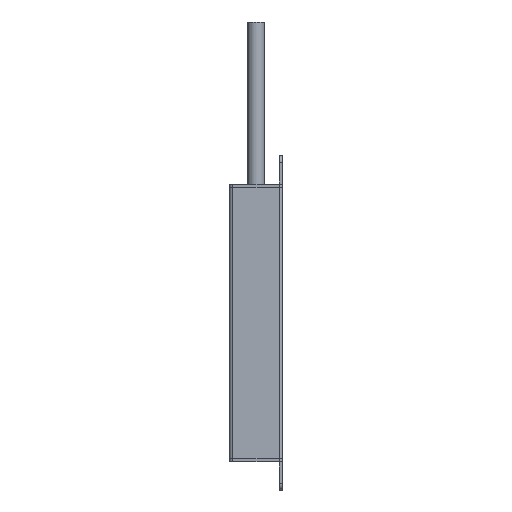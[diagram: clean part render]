
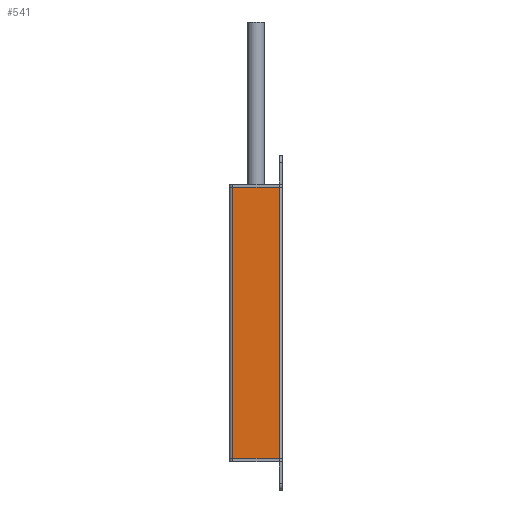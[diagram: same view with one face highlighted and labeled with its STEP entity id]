
A CAD part, left-side view. The second image highlights one B-rep face of the part: STEP entity #541.
In plain terms, the highlighted planar face has unit normal (-1, 0, 0).
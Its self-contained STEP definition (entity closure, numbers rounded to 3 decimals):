
#214=PLANE('',#6213);
#541=ADVANCED_FACE('',(#958),#214,.T.);
#958=FACE_OUTER_BOUND('',#1288,.T.);
#1288=EDGE_LOOP('',(#2774,#2775,#2776,#2777));
#2774=ORIENTED_EDGE('',*,*,#4473,.F.);
#2775=ORIENTED_EDGE('',*,*,#4402,.F.);
#2776=ORIENTED_EDGE('',*,*,#4475,.T.);
#2777=ORIENTED_EDGE('',*,*,#4476,.T.);
#3683=VERTEX_POINT('',#9115);
#3684=VERTEX_POINT('',#9116);
#3753=VERTEX_POINT('',#9257);
#3754=VERTEX_POINT('',#9261);
#4402=EDGE_CURVE('',#3683,#3684,#5056,.T.);
#4473=EDGE_CURVE('',#3684,#3753,#5099,.T.);
#4475=EDGE_CURVE('',#3683,#3754,#5100,.T.);
#4476=EDGE_CURVE('',#3754,#3753,#5101,.T.);
#5056=LINE('',#9114,#5610);
#5099=LINE('',#9256,#5653);
#5100=LINE('',#9260,#5654);
#5101=LINE('',#9262,#5655);
#5610=VECTOR('',#7435,1.);
#5653=VECTOR('',#7536,1.);
#5654=VECTOR('',#7541,1.);
#5655=VECTOR('',#7542,1.);
#6213=AXIS2_PLACEMENT_3D('',#9263,#7543,#7544);
#7435=DIRECTION('',(0.,1.,0.));
#7536=DIRECTION('',(0.,0.,1.));
#7541=DIRECTION('',(0.,0.,1.));
#7542=DIRECTION('',(0.,1.,0.));
#7543=DIRECTION('',(-1.,0.,0.));
#7544=DIRECTION('',(0.,1.,0.));
#9114=CARTESIAN_POINT('',(-195.65,-0.3,-100.));
#9115=CARTESIAN_POINT('',(-195.65,-0.3,-100.));
#9116=CARTESIAN_POINT('',(-195.65,13.7,-100.));
#9256=CARTESIAN_POINT('',(-195.65,13.7,-100.));
#9257=CARTESIAN_POINT('',(-195.65,13.7,-18.));
#9260=CARTESIAN_POINT('',(-195.65,-0.3,-100.));
#9261=CARTESIAN_POINT('',(-195.65,-0.3,-18.));
#9262=CARTESIAN_POINT('',(-195.65,-0.3,-18.));
#9263=CARTESIAN_POINT('',(-195.65,-0.3,-100.));
